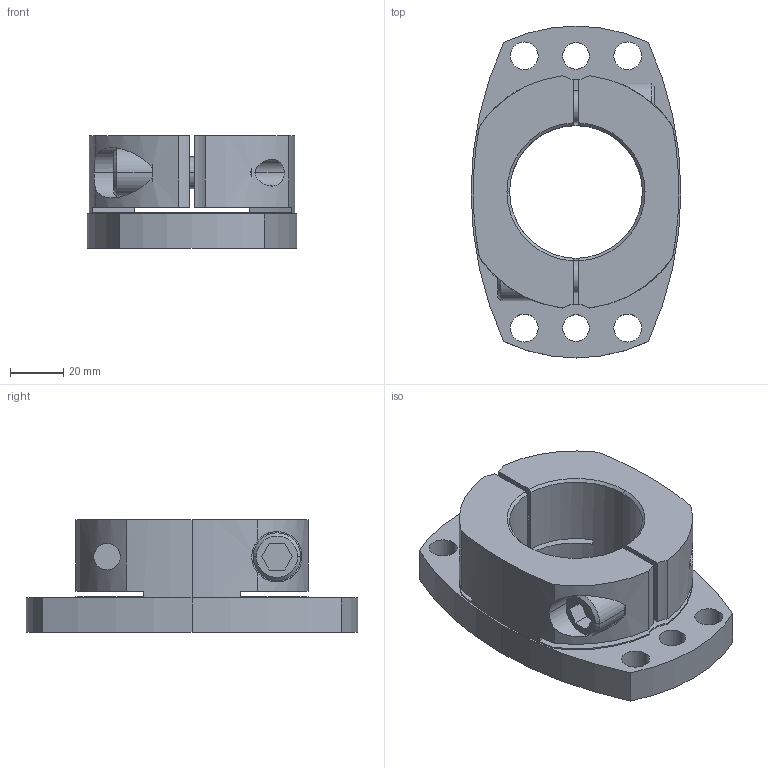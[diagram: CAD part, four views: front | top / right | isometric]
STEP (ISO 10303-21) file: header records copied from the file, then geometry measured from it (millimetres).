
FILE_DESCRIPTION((''),'2;1');
FILE_NAME('SHDB-125B-50.stp','2026-01-28T08:51:17',(''),(''),'AutoCAD STEP 2000i','AutoCAD 2000i',', , ');
FILE_SCHEMA(('CONFIG_CONTROL_DESIGN'));
Length unit declared in the file: millimetre
Products named in the file (2): SHDB-125B-42; 忣兜1
Assembly tree (1 placements, depth 2):
  SHDB-125B-42
    忣兜1
Bounding box: 79 x 125 x 42.5 mm (x, y, z)
Volume: 177673.7 mm3; surface area: 43511.8 mm2
Topology: 1 solids, 1 shells, 108 faces, 286 edges, 188 vertices
Faces by surface type: cylinder 62, plane 36, cone 10
Entity records: 3825 total; most frequent: CARTESIAN_POINT 904, DIRECTION 624, ORIENTED_EDGE 572, EDGE_CURVE 286, AXIS2_PLACEMENT_3D 248, VERTEX_POINT 188, CIRCLE 138, EDGE_LOOP 134
